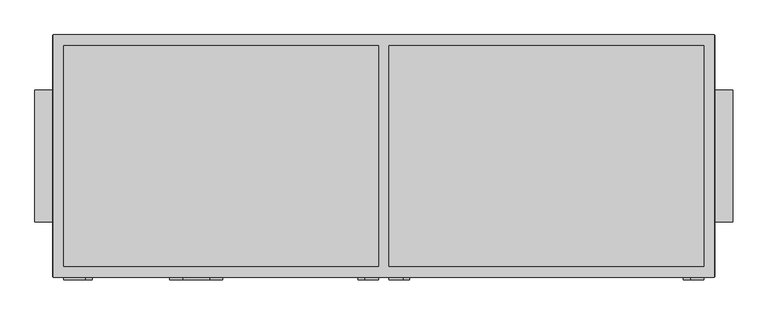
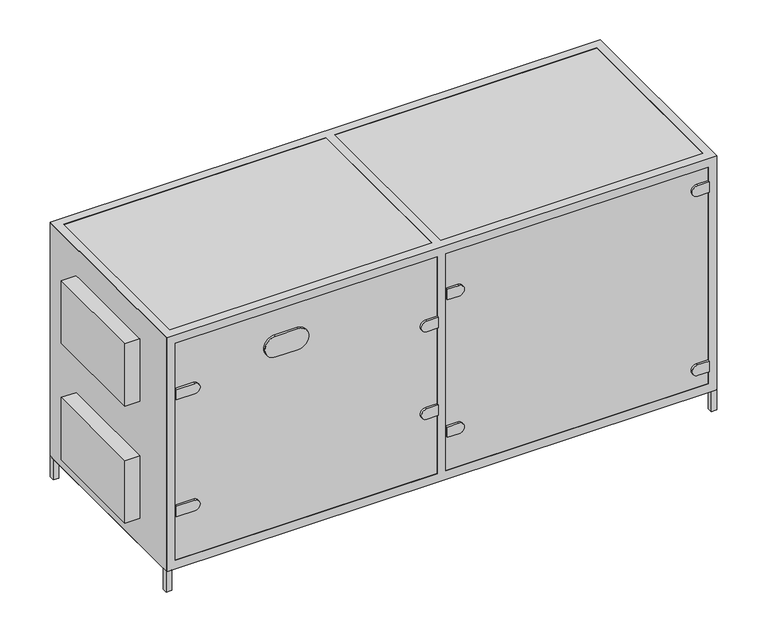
"""IFC4 building model written with IfcOpenShell, lengths in millimetres: proxy geometry, AVS 2200...3800-S-RC(RG)-R : AVS 2900-S-RC-R."""

from ifc_helpers import new_model, si_unit, point, frame, frame_2d, origin, origin_with_axes, place, context, project, spatial, polyline, circle_curve, trimmed, segment, composite_curve, outline, extrude, faceted_brep, source, transform, mapped, element, save


def mechanical_equipment_9481cabd(model_context):
    return source(origin(), model_context, "Body", "SolidModel", [
        extrude(outline(polyline([(1225.0, 457.0), (1250.0, 457.0), (1250.0, 432.0), (1225.0, 432.0), (1225.0, 457.0)])), origin_with_axes(), (0.0, 0.0, 1.0), 100.0),
        extrude(outline(polyline([(1225.0, -457.0), (1225.0, -432.0), (1250.0, -432.0), (1250.0, -457.0), (1225.0, -457.0)])), origin_with_axes(), (0.0, 0.0, 1.0), 100.0),
        extrude(outline(polyline([(-1250.0, 432.0), (-1250.0, 457.0), (-1225.0, 457.0), (-1225.0, 432.0), (-1250.0, 432.0)])), origin_with_axes(), (0.0, 0.0, 1.0), 100.0),
        extrude(outline(polyline([(-1250.0, -432.0), (-1225.0, -432.0), (-1225.0, -457.0), (-1250.0, -457.0), (-1250.0, -432.0)])), origin_with_axes(), (0.0, 0.0, 1.0), 100.0),
        faceted_brep([(1249.0, 458.0, 1222.0), (-1249.0, 458.0, 1222.0), (-1249.0, -458.0, 1222.0), (1249.0, -458.0, 1222.0), (1210.0, 417.0, 1222.0), (1210.0, -417.0, 1222.0), (20.0, -417.0, 1222.0), (20.0, 417.0, 1222.0), (-1210.0, 417.0, 1222.0), (-20.0, 417.0, 1222.0), (-20.0, -417.0, 1222.0), (-1210.0, -417.0, 1222.0), (1249.0, 458.0, 99.0), (1249.0, -458.0, 99.0), (-1249.0, -458.0, 99.0), (-1249.0, 458.0, 99.0), (1210.0, -417.0, 99.0), (1210.0, 417.0, 99.0), (20.0, 417.0, 99.0), (20.0, -417.0, 99.0), (-20.0, 417.0, 99.0), (-1210.0, 417.0, 99.0), (-1210.0, -417.0, 99.0), (-20.0, -417.0, 99.0), (-20.0, 458.0, 1181.0), (-1210.0, 458.0, 1181.0), (-1210.0, 458.0, 140.0), (-20.0, 458.0, 140.0), (1210.0, 458.0, 140.0), (1210.0, 458.0, 1181.0), (20.0, 458.0, 1181.0), (20.0, 458.0, 140.0), (-1249.0, -417.0, 1181.0), (-1249.0, -417.0, 140.0), (-1249.0, 417.0, 140.0), (-1249.0, 417.0, 1181.0), (-1210.0, -458.0, 1181.0), (-20.0, -458.0, 1181.0), (-20.0, -458.0, 140.0), (-1210.0, -458.0, 140.0), (1210.0, -458.0, 1181.0), (1210.0, -458.0, 140.0), (20.0, -458.0, 140.0), (20.0, -458.0, 1181.0), (1249.0, -417.0, 140.0), (1249.0, -417.0, 1181.0), (1249.0, 417.0, 1181.0), (1249.0, 417.0, 140.0), (-1210.0, 417.0, 1181.0), (-20.0, 417.0, 1181.0), (-20.0, 417.0, 140.0), (-1210.0, 417.0, 140.0), (-20.0, -417.0, 1181.0), (-1210.0, -417.0, 1181.0), (-1210.0, -417.0, 140.0), (-20.0, -417.0, 140.0), (1210.0, 417.0, 1181.0), (1210.0, -417.0, 1181.0), (1210.0, -417.0, 140.0), (1210.0, 417.0, 140.0), (20.0, 417.0, 1181.0), (20.0, -417.0, 1181.0), (20.0, -417.0, 140.0), (20.0, 417.0, 140.0)], [[[0, 1, 2, 3], [4, 5, 6, 7], [8, 9, 10, 11]], [[12, 13, 14, 15], [16, 17, 18, 19], [20, 21, 22, 23]], [[1, 0, 12, 15], [24, 25, 26, 27], [28, 29, 30, 31]], [[2, 1, 15, 14], [32, 33, 34, 35]], [[3, 2, 14, 13], [36, 37, 38, 39], [40, 41, 42, 43]], [[0, 3, 13, 12], [44, 45, 46, 47]], [[9, 8, 48, 49]], [[21, 20, 50, 51]], [[11, 10, 52, 53]], [[23, 22, 54, 55]], [[5, 4, 56, 57]], [[17, 16, 58, 59]], [[40, 57, 58, 41]], [[56, 29, 28, 59]], [[35, 48, 53, 32]], [[45, 57, 56, 46]], [[49, 60, 61, 52]], [[51, 34, 33, 54]], [[47, 59, 58, 44]], [[55, 62, 63, 50]], [[36, 53, 52, 37]], [[24, 49, 48, 25]], [[54, 39, 38, 55]], [[50, 27, 26, 51]], [[32, 53, 54, 33]], [[52, 61, 62, 55]], [[44, 58, 57, 45]], [[48, 35, 34, 51]], [[60, 49, 50, 63]], [[59, 47, 46, 56]], [[8, 11, 53, 48]], [[22, 21, 51, 54]], [[53, 36, 39, 54]], [[25, 48, 51, 26]], [[10, 9, 49, 52]], [[20, 23, 55, 50]], [[37, 52, 55, 38]], [[49, 24, 27, 50]], [[4, 7, 60, 56]], [[18, 17, 59, 63]], [[7, 6, 61, 60]], [[19, 18, 63, 62]], [[30, 60, 63, 31]], [[61, 43, 42, 62]], [[57, 40, 43, 61]], [[29, 56, 60, 30]], [[41, 58, 62, 42]], [[59, 28, 31, 63]], [[6, 5, 57, 61]], [[16, 19, 62, 58]]]),
        extrude(outline(polyline([(-1250.0, 457.0), (1250.0, 457.0), (1250.0, -457.0), (-1250.0, -457.0), (-1250.0, 457.0)])), frame((0.0, 0.0, 100.0), z_axis=(0.0, 0.0, 1.0), x_axis=(1.0, 0.0, 0.0)), (0.0, 0.0, 1.0), 1121.0),
        extrude(outline(composite_curve([segment(polyline([(965.75, -1127.2895396), (965.75, -1210.0), (915.75, -1210.0), (915.75, -1127.2895396)]), True, "CONTINUOUS"), segment(trimmed(circle_curve(frame_2d((940.75, -1127.2895396)), 25.0), [point((915.75, -1127.2895396))], [point((965.75, -1127.2895396))], False, "CARTESIAN"), True, "CONTINUOUS")], self_intersect=False)), frame((0.0, -468.0, 0.0), z_axis=(0.0, 1.0, 0.0), x_axis=(0.0, 0.0, 1.0)), (0.0, 0.0, 1.0), 11.0),
        extrude(outline(composite_curve([segment(polyline([(405.25, -1127.2895396), (405.25, -1210.0), (355.25, -1210.0), (355.25, -1127.2895396)]), True, "CONTINUOUS"), segment(trimmed(circle_curve(frame_2d((380.25, -1127.2895396)), 25.0), [point((355.25, -1127.2895396))], [point((405.25, -1127.2895396))], False, "CARTESIAN"), True, "CONTINUOUS")], self_intersect=False)), frame((0.0, -468.0, 0.0), z_axis=(0.0, 1.0, 0.0), x_axis=(0.0, 0.0, 1.0)), (0.0, 0.0, 1.0), 11.0),
        extrude(outline(composite_curve([segment(trimmed(circle_curve(frame_2d((870.75, -72.7104604)), 25.0), [point((895.75, -72.7104604))], [point((845.75, -72.7104604))], False, "CARTESIAN"), True, "CONTINUOUS"), segment(polyline([(845.75, -72.7104604), (845.75, -20.0), (895.75, -20.0), (895.75, -72.7104604)]), True, "CONTINUOUS")], self_intersect=False)), frame((0.0, -468.0, 0.0), z_axis=(0.0, 1.0, 0.0), x_axis=(0.0, 0.0, 1.0)), (0.0, 0.0, 1.0), 11.0),
        extrude(outline(composite_curve([segment(polyline([(425.25, -72.7104604), (425.25, -20.0), (475.25, -20.0), (475.25, -72.7104604)]), True, "CONTINUOUS"), segment(trimmed(circle_curve(frame_2d((450.25, -72.7104604)), 25.0), [point((475.25, -72.7104604))], [point((425.25, -72.7104604))], False, "CARTESIAN"), True, "CONTINUOUS")], self_intersect=False)), frame((0.0, -468.0, 0.0), z_axis=(0.0, 1.0, 0.0), x_axis=(0.0, 0.0, 1.0)), (0.0, 0.0, 1.0), 11.0),
        extrude(outline(composite_curve([segment(trimmed(circle_curve(frame_2d((1090.75, 1157.2895396)), 25.0), [point((1115.75, 1157.2895396))], [point((1065.75, 1157.2895396))], False, "CARTESIAN"), True, "CONTINUOUS"), segment(polyline([(1065.75, 1157.2895396), (1065.75, 1210.0), (1115.75, 1210.0), (1115.75, 1157.2895396)]), True, "CONTINUOUS")], self_intersect=False)), frame((0.0, -468.0, 0.0), z_axis=(0.0, 1.0, 0.0), x_axis=(0.0, 0.0, 1.0)), (0.0, 0.0, 1.0), 11.0),
        extrude(outline(composite_curve([segment(polyline([(205.25, 1157.2895396), (205.25, 1210.0), (255.25, 1210.0), (255.25, 1157.2895396)]), True, "CONTINUOUS"), segment(trimmed(circle_curve(frame_2d((230.25, 1157.2895396)), 25.0), [point((255.25, 1157.2895396))], [point((205.25, 1157.2895396))], False, "CARTESIAN"), True, "CONTINUOUS")], self_intersect=False)), frame((0.0, -468.0, 0.0), z_axis=(0.0, 1.0, 0.0), x_axis=(0.0, 0.0, 1.0)), (0.0, 0.0, 1.0), 11.0),
        extrude(outline(composite_curve([segment(polyline([(1015.75, 72.7104604), (1015.75, 20.0), (965.75, 20.0), (965.75, 72.7104604)]), True, "CONTINUOUS"), segment(trimmed(circle_curve(frame_2d((990.75, 72.7104604)), 25.0), [point((965.75, 72.7104604))], [point((1015.75, 72.7104604))], False, "CARTESIAN"), True, "CONTINUOUS")], self_intersect=False)), frame((0.0, -468.0, 0.0), z_axis=(0.0, 1.0, 0.0), x_axis=(0.0, 0.0, 1.0)), (0.0, 0.0, 1.0), 11.0),
        extrude(outline(composite_curve([segment(trimmed(circle_curve(frame_2d((330.25, 72.7104604)), 25.0), [point((305.25, 72.7104604))], [point((355.25, 72.7104604))], False, "CARTESIAN"), True, "CONTINUOUS"), segment(polyline([(355.25, 72.7104604), (355.25, 20.0), (305.25, 20.0), (305.25, 72.7104604)]), True, "CONTINUOUS")], self_intersect=False)), frame((0.0, -468.0, 0.0), z_axis=(0.0, 1.0, 0.0), x_axis=(0.0, 0.0, 1.0)), (0.0, 0.0, 1.0), 11.0),
        extrude(outline(composite_curve([segment(polyline([(1064.7031077, -658.4249776), (1064.7031077, -758.4249776)]), True, "CONTINUOUS"), segment(trimmed(circle_curve(frame_2d((1014.7031077, -758.4249776)), 50.0), [point((1064.7031077, -758.4249776))], [point((964.7031077, -758.4249776))], False, "CARTESIAN"), True, "CONTINUOUS"), segment(polyline([(964.7031077, -758.4249776), (964.7031077, -658.4249776)]), True, "CONTINUOUS"), segment(trimmed(circle_curve(frame_2d((1014.7031077, -658.4249776)), 50.0), [point((964.7031077, -658.4249776))], [point((1064.7031077, -658.4249776))], False, "CARTESIAN"), True, "CONTINUOUS")], self_intersect=False)), frame((0.0, -468.0, 0.0), z_axis=(0.0, 1.0, 0.0), x_axis=(0.0, 0.0, 1.0)), (0.0, 0.0, 1.0), 11.0),
        extrude(outline(polyline([(-1318.0, -250.0), (-1318.0, 250.0), (-1250.0, 250.0), (-1250.0, -250.0), (-1318.0, -250.0)])), frame((0.0, 0.0, 790.75), z_axis=(0.0, 0.0, 1.0), x_axis=(1.0, 0.0, 0.0)), (0.0, 0.0, 1.0), 300.0),
        extrude(outline(polyline([(-1318.0, -250.0), (-1318.0, 250.0), (-1250.0, 250.0), (-1250.0, -250.0), (-1318.0, -250.0)])), frame((0.0, 0.0, 230.25), z_axis=(0.0, 0.0, 1.0), x_axis=(1.0, 0.0, 0.0)), (0.0, 0.0, 1.0), 300.0),
        extrude(outline(polyline([(1318.0, 250.0), (1318.0, -250.0), (1250.0, -250.0), (1250.0, 250.0), (1318.0, 250.0)])), frame((0.0, 0.0, 790.75), z_axis=(0.0, 0.0, 1.0), x_axis=(1.0, 0.0, 0.0)), (0.0, 0.0, 1.0), 300.0),
        extrude(outline(polyline([(1318.0, 250.0), (1318.0, -250.0), (1250.0, -250.0), (1250.0, 250.0), (1318.0, 250.0)])), frame((0.0, 0.0, 230.25), z_axis=(0.0, 0.0, 1.0), x_axis=(1.0, 0.0, 0.0)), (0.0, 0.0, 1.0), 300.0),
    ])


if __name__ == "__main__":
    model = new_model("IFC4")
    model_context = context("Model", 3, world=origin())
    ifc_project = project(units=[si_unit("LENGTHUNIT", "METRE", prefix="MILLI")], contexts=[model_context])
    site = spatial("IfcSite", under=ifc_project)
    building = spatial("IfcBuilding", under=site)
    placement = place(None, origin())
    mechanical_equipment_shape = mechanical_equipment_9481cabd(model_context)
    element("IfcBuildingElementProxy", 1, Name="AVS 2200...3800-S-RC(RG)-R : AVS 2900-S-RC-R", ObjectType="AVS 2200...3800-S-RC(RG)-R : AVS 2900-S-RC-R", at=placement, inside=building, context=model_context, shape_type="MappedRepresentation", body=[
        mapped(mechanical_equipment_shape, transform((0.0, 0.0, 0.0), x_axis=(1.0, 0.0, 0.0), y_axis=(0.0, 1.0, 0.0), z_axis=(0.0, 0.0, 1.0))),
    ])
    save(model, "model.ifc")
